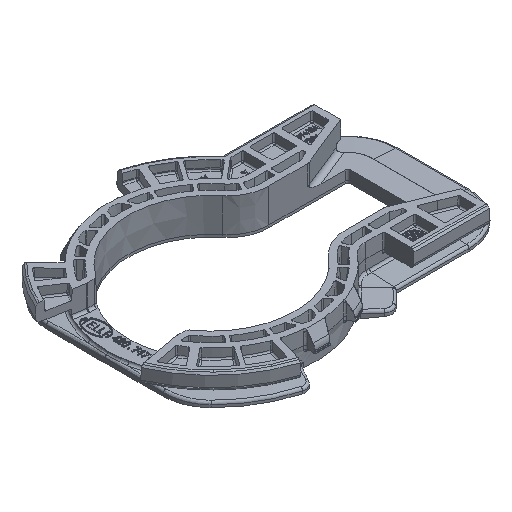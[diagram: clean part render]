
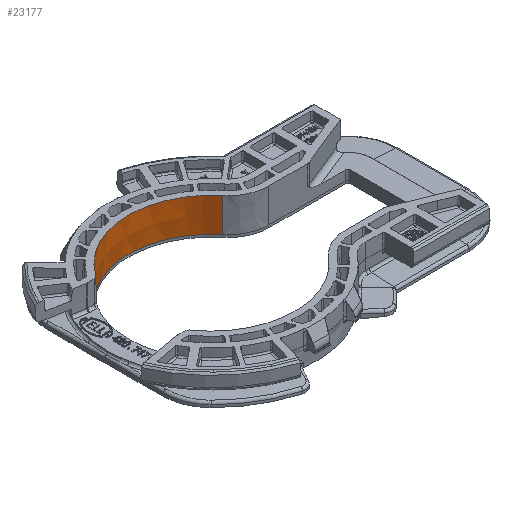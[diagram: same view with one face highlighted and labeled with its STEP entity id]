
A CAD part, isometric view. The second image highlights one B-rep face of the part: STEP entity #23177.
In plain terms, the highlighted conical face has half-angle 0.5 degrees and reference radius 17.35 mm.
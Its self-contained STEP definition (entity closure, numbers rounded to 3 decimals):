
#15741=CARTESIAN_POINT('',(-17.35,-0.,0.52));
#15742=VERTEX_POINT('',#15741);
#15750=CARTESIAN_POINT('',(-17.367,-0.,2.5));
#15751=VERTEX_POINT('',#15750);
#15752=CARTESIAN_POINT('',(-17.35,-0.,0.52));
#15753=DIRECTION('',(-0.009,-0.,1.));
#15754=VECTOR('',#15753,1.98);
#15755=LINE('',#15752,#15754);
#15756=EDGE_CURVE('',#15742,#15751,#15755,.T.);
#23112=CARTESIAN_POINT('',(-0.,0.,0.52));
#23113=DIRECTION('',(-0.,0.,1.));
#23114=DIRECTION('',(0.978,0.209,0.));
#23115=AXIS2_PLACEMENT_3D('',#23112,#23113,#23114);
#23116=CONICAL_SURFACE('',#23115,17.35,0.5);
#23117=CARTESIAN_POINT('',(13.384,11.041,0.52));
#23118=VERTEX_POINT('',#23117);
#23119=CARTESIAN_POINT('',(-0.,0.,0.52));
#23120=DIRECTION('',(0.,0.,-1.));
#23121=DIRECTION('',(0.978,0.209,0.));
#23122=AXIS2_PLACEMENT_3D('',#23119,#23120,#23121);
#23123=CIRCLE('',#23122,17.35);
#23124=EDGE_CURVE('',#15742,#23118,#23123,.T.);
#23125=ORIENTED_EDGE('',*,*,#23124,.T.);
#23126=CARTESIAN_POINT('',(13.431,11.08,7.535));
#23127=VERTEX_POINT('',#23126);
#23128=CARTESIAN_POINT('',(13.384,11.041,0.52));
#23129=DIRECTION('',(0.007,0.006,1.));
#23130=VECTOR('',#23129,7.015);
#23131=LINE('',#23128,#23130);
#23132=EDGE_CURVE('',#23118,#23127,#23131,.T.);
#23133=ORIENTED_EDGE('',*,*,#23132,.T.);
#23134=CARTESIAN_POINT('',(-14.343,9.871,7.535));
#23135=VERTEX_POINT('',#23134);
#23136=CARTESIAN_POINT('',(-0.,0.,7.535));
#23137=DIRECTION('',(0.,0.,-1.));
#23138=DIRECTION('',(0.978,0.209,0.));
#23139=AXIS2_PLACEMENT_3D('',#23136,#23137,#23138);
#23140=CIRCLE('',#23139,17.411);
#23141=EDGE_CURVE('',#23135,#23127,#23140,.T.);
#23142=ORIENTED_EDGE('',*,*,#23141,.F.);
#23143=CARTESIAN_POINT('',(-14.347,9.795,2.996));
#23144=VERTEX_POINT('',#23143);
#23145=CARTESIAN_POINT('',(-14.343,9.871,7.535));
#23146=CARTESIAN_POINT('',(-14.344,9.846,6.022));
#23147=CARTESIAN_POINT('',(-14.346,9.82,4.509));
#23148=CARTESIAN_POINT('',(-14.347,9.795,2.996));
#23149=B_SPLINE_CURVE_WITH_KNOTS('',3,(#23145,#23146,#23147,#23148),.UNSPECIFIED.,.F.,.F.,(4,4),(0.005,0.012),.UNSPECIFIED.);
#23150=EDGE_CURVE('',#23135,#23144,#23149,.T.);
#23151=ORIENTED_EDGE('',*,*,#23150,.T.);
#23152=CARTESIAN_POINT('',(-14.926,8.879,2.5));
#23153=VERTEX_POINT('',#23152);
#23154=CARTESIAN_POINT('',(-14.347,9.795,2.996));
#23155=CARTESIAN_POINT('',(-14.429,9.673,2.889));
#23156=CARTESIAN_POINT('',(-14.509,9.551,2.781));
#23157=CARTESIAN_POINT('',(-14.602,9.406,2.686));
#23158=CARTESIAN_POINT('',(-14.648,9.333,2.638));
#23159=CARTESIAN_POINT('',(-14.697,9.255,2.594));
#23160=CARTESIAN_POINT('',(-14.751,9.167,2.559));
#23161=CARTESIAN_POINT('',(-14.805,9.08,2.525));
#23162=CARTESIAN_POINT('',(-14.864,8.983,2.5));
#23163=CARTESIAN_POINT('',(-14.926,8.879,2.5));
#23164=B_SPLINE_CURVE_WITH_KNOTS('',3,(#23154,#23155,#23156,#23157,#23158,#23159,#23160,#23161,#23162,#23163),.UNSPECIFIED.,.F.,.F.,(4,3,3,4),(0.,0.001,0.001,0.002),.UNSPECIFIED.);
#23165=EDGE_CURVE('',#23144,#23153,#23164,.T.);
#23166=ORIENTED_EDGE('',*,*,#23165,.T.);
#23167=CARTESIAN_POINT('',(-0.,0.,2.5));
#23168=DIRECTION('',(-0.,-0.,1.));
#23169=DIRECTION('',(0.978,0.209,0.));
#23170=AXIS2_PLACEMENT_3D('',#23167,#23168,#23169);
#23171=CIRCLE('',#23170,17.367);
#23172=EDGE_CURVE('',#23153,#15751,#23171,.T.);
#23173=ORIENTED_EDGE('',*,*,#23172,.T.);
#23174=ORIENTED_EDGE('',*,*,#15756,.F.);
#23175=EDGE_LOOP('',(#23125,#23133,#23142,#23151,#23166,#23173,#23174));
#23176=FACE_BOUND('',#23175,.T.);
#23177=ADVANCED_FACE('',(#23176),#23116,.F.);
